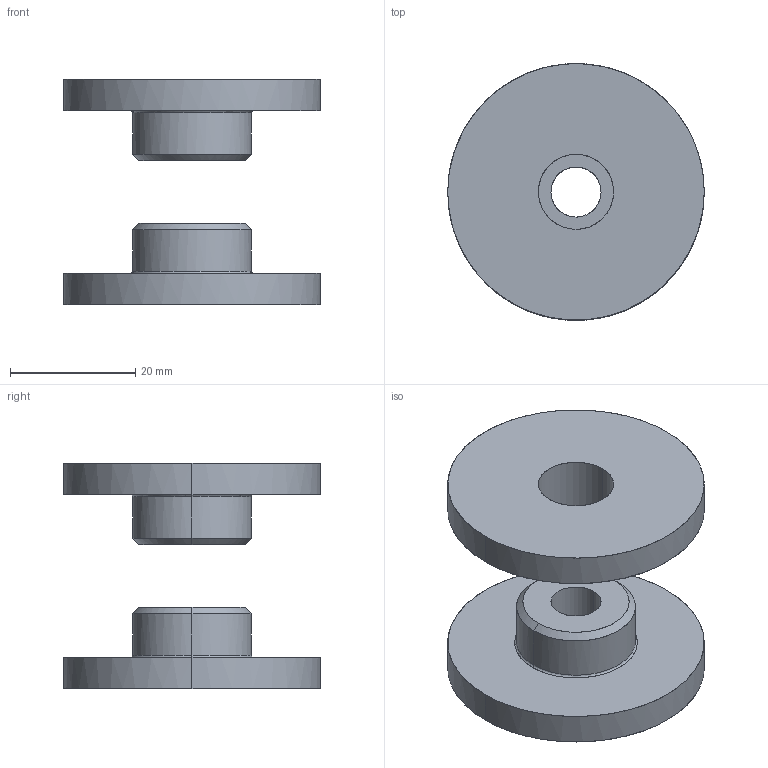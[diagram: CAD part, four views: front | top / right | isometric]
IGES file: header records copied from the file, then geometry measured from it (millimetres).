
Global section: file name: E:\UnigraphicsGraphicData\MISUMI_PRESS-PARTS\IGES\3d_wunt40_00808_r00.igs; native system: NX V5.0; preprocessor: UGS NX IGES V5.0; author: MISUMI; date: 20110105.163521; units: millimetre
Bounding box: 41 x 41 x 36 mm (x, y, z)
Surface area: 7925.9 mm2 (no closed solid volume)
Topology: 0 solids, 0 shells, 26 faces, 208 edges, 208 vertices
Faces by surface type: bspline 26
